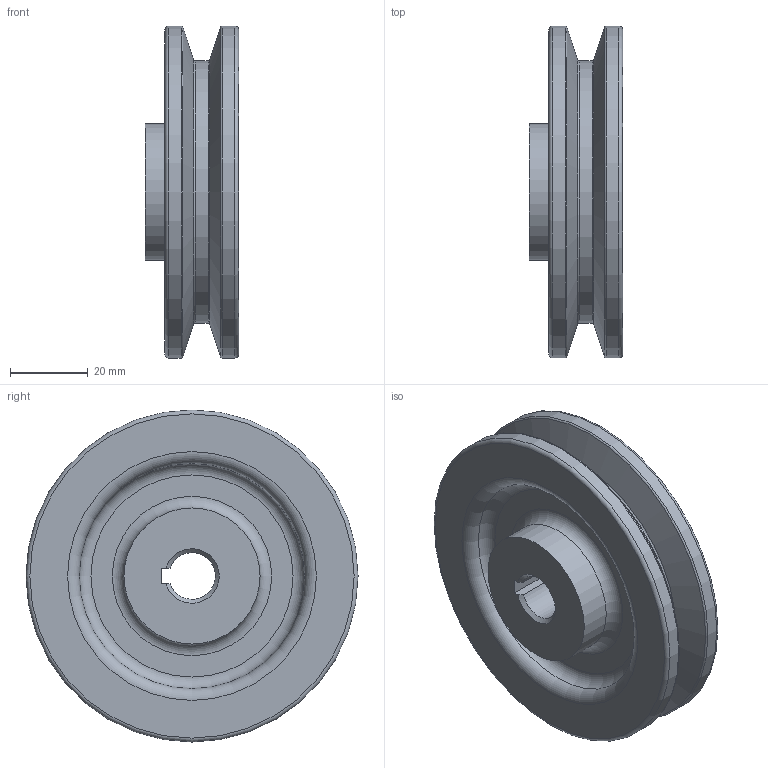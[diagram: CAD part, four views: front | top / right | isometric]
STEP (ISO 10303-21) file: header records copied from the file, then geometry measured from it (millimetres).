
FILE_DESCRIPTION((''),'2;1');
FILE_NAME('C:\Users\Administrator\Desktop\벨트풀리.stp','2019-09-28T12:01:47',('Administrator'),(''),'Autodesk Inventor 2013','Autodesk Inventor 2013','');
FILE_SCHEMA(('AUTOMOTIVE_DESIGN { 1 0 10303 214 1 1 1 1 }'));
Length unit declared in the file: millimetre
Products named in the file (1): 벨트풀리
Bounding box: 24 x 85.4 x 85.4 mm (x, y, z)
Volume: 75559.3 mm3; surface area: 22541 mm2
Topology: 1 solids, 1 shells, 31 faces, 62 edges, 37 vertices
Faces by surface type: torus 12, plane 9, cylinder 6, cone 4
Full cylindrical faces by diameter (mm): 35 x2, 67.4 x1, 85.4 x2
Entity records: 722 total; most frequent: DIRECTION 130, CARTESIAN_POINT 118, ORIENTED_EDGE 84, AXIS2_PLACEMENT_3D 60, EDGE_LOOP 56, EDGE_CURVE 42, VERTEX_POINT 36, FACE_OUTER_BOUND 31
